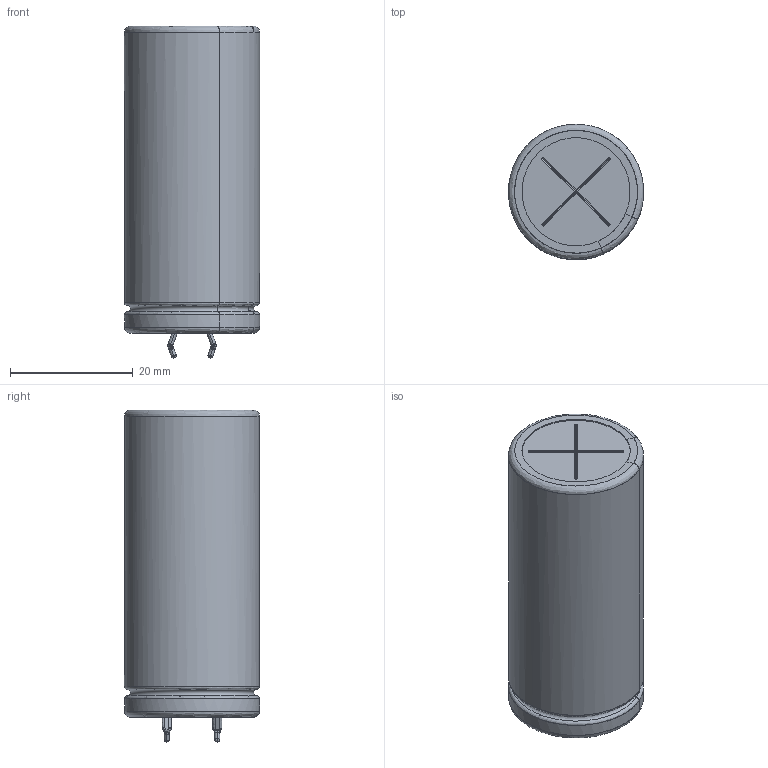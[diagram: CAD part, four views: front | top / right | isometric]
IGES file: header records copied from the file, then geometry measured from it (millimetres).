
Start section: JAMA-IS VERSION  1.0
Bounding box: 21.98 x 21.98 x 54.02 mm (x, y, z)
Surface area: 11748 mm2 (no closed solid volume)
Topology: 0 solids, 0 shells, 208 faces, 2178 edges, 2142 vertices
Faces by surface type: bspline 208
